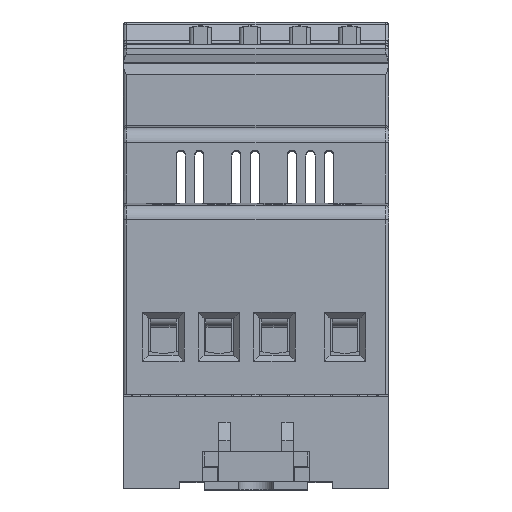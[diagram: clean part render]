
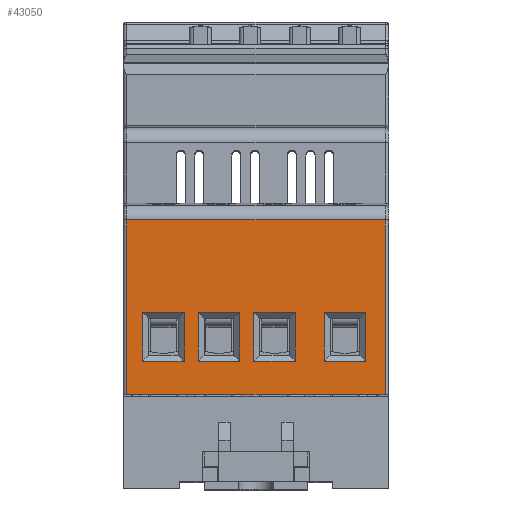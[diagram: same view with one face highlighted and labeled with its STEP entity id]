
A CAD part, top view. The second image highlights one B-rep face of the part: STEP entity #43050.
In plain terms, the highlighted planar face has unit normal (0, 0, 1).
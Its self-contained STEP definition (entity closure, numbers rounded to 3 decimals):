
#377=PLANE('',#59013);
#3580=LINE('',#77798,#9213);
#3581=LINE('',#77801,#9214);
#3582=LINE('',#77803,#9215);
#3583=LINE('',#77805,#9216);
#3584=LINE('',#77806,#9217);
#3585=LINE('',#77809,#9218);
#3586=LINE('',#77811,#9219);
#3587=LINE('',#77813,#9220);
#3588=LINE('',#77814,#9221);
#3589=LINE('',#77817,#9222);
#3590=LINE('',#77819,#9223);
#3591=LINE('',#77821,#9224);
#3592=LINE('',#77822,#9225);
#3593=LINE('',#77825,#9226);
#3594=LINE('',#77827,#9227);
#3595=LINE('',#77829,#9228);
#3596=LINE('',#77830,#9229);
#3597=LINE('',#77833,#9230);
#3598=LINE('',#77835,#9231);
#3599=LINE('',#77837,#9232);
#9213=VECTOR('',#63330,1000.);
#9214=VECTOR('',#63331,1000.);
#9215=VECTOR('',#63332,1000.);
#9216=VECTOR('',#63333,1000.);
#9217=VECTOR('',#63334,1000.);
#9218=VECTOR('',#63335,1000.);
#9219=VECTOR('',#63336,1000.);
#9220=VECTOR('',#63337,1000.);
#9221=VECTOR('',#63338,1000.);
#9222=VECTOR('',#63339,1000.);
#9223=VECTOR('',#63340,1000.);
#9224=VECTOR('',#63341,1000.);
#9225=VECTOR('',#63342,1000.);
#9226=VECTOR('',#63343,1000.);
#9227=VECTOR('',#63344,1000.);
#9228=VECTOR('',#63345,1000.);
#9229=VECTOR('',#63346,1000.);
#9230=VECTOR('',#63347,1000.);
#9231=VECTOR('',#63348,1000.);
#9232=VECTOR('',#63349,1000.);
#15291=ORIENTED_EDGE('',*,*,#23379,.T.);
#15292=ORIENTED_EDGE('',*,*,#23380,.T.);
#15293=ORIENTED_EDGE('',*,*,#23381,.T.);
#15294=ORIENTED_EDGE('',*,*,#23382,.T.);
#15295=ORIENTED_EDGE('',*,*,#23383,.T.);
#15296=ORIENTED_EDGE('',*,*,#23384,.T.);
#15297=ORIENTED_EDGE('',*,*,#23385,.T.);
#15298=ORIENTED_EDGE('',*,*,#23386,.T.);
#15299=ORIENTED_EDGE('',*,*,#23387,.T.);
#15300=ORIENTED_EDGE('',*,*,#23388,.T.);
#15301=ORIENTED_EDGE('',*,*,#23389,.T.);
#15302=ORIENTED_EDGE('',*,*,#23390,.T.);
#15303=ORIENTED_EDGE('',*,*,#23391,.T.);
#15304=ORIENTED_EDGE('',*,*,#23392,.T.);
#15305=ORIENTED_EDGE('',*,*,#23393,.T.);
#15306=ORIENTED_EDGE('',*,*,#23394,.T.);
#15307=ORIENTED_EDGE('',*,*,#23395,.T.);
#15308=ORIENTED_EDGE('',*,*,#23396,.T.);
#15309=ORIENTED_EDGE('',*,*,#23397,.T.);
#15310=ORIENTED_EDGE('',*,*,#23398,.T.);
#23379=EDGE_CURVE('',#31467,#31468,#3580,.T.);
#23380=EDGE_CURVE('',#31468,#31469,#3581,.T.);
#23381=EDGE_CURVE('',#31469,#31470,#3582,.T.);
#23382=EDGE_CURVE('',#31470,#31467,#3583,.T.);
#23383=EDGE_CURVE('',#31471,#31472,#3584,.T.);
#23384=EDGE_CURVE('',#31472,#31473,#3585,.T.);
#23385=EDGE_CURVE('',#31473,#31474,#3586,.T.);
#23386=EDGE_CURVE('',#31474,#31471,#3587,.T.);
#23387=EDGE_CURVE('',#31475,#31476,#3588,.T.);
#23388=EDGE_CURVE('',#31476,#31477,#3589,.T.);
#23389=EDGE_CURVE('',#31477,#31478,#3590,.T.);
#23390=EDGE_CURVE('',#31478,#31475,#3591,.T.);
#23391=EDGE_CURVE('',#31479,#31480,#3592,.T.);
#23392=EDGE_CURVE('',#31480,#31481,#3593,.T.);
#23393=EDGE_CURVE('',#31481,#31482,#3594,.T.);
#23394=EDGE_CURVE('',#31482,#31479,#3595,.T.);
#23395=EDGE_CURVE('',#31483,#31484,#3596,.T.);
#23396=EDGE_CURVE('',#31484,#31485,#3597,.T.);
#23397=EDGE_CURVE('',#31485,#31486,#3598,.T.);
#23398=EDGE_CURVE('',#31486,#31483,#3599,.T.);
#31467=VERTEX_POINT('',#77799);
#31468=VERTEX_POINT('',#77800);
#31469=VERTEX_POINT('',#77802);
#31470=VERTEX_POINT('',#77804);
#31471=VERTEX_POINT('',#77807);
#31472=VERTEX_POINT('',#77808);
#31473=VERTEX_POINT('',#77810);
#31474=VERTEX_POINT('',#77812);
#31475=VERTEX_POINT('',#77815);
#31476=VERTEX_POINT('',#77816);
#31477=VERTEX_POINT('',#77818);
#31478=VERTEX_POINT('',#77820);
#31479=VERTEX_POINT('',#77823);
#31480=VERTEX_POINT('',#77824);
#31481=VERTEX_POINT('',#77826);
#31482=VERTEX_POINT('',#77828);
#31483=VERTEX_POINT('',#77831);
#31484=VERTEX_POINT('',#77832);
#31485=VERTEX_POINT('',#77834);
#31486=VERTEX_POINT('',#77836);
#39400=EDGE_LOOP('',(#15291,#15292,#15293,#15294));
#39401=EDGE_LOOP('',(#15295,#15296,#15297,#15298));
#39402=EDGE_LOOP('',(#15299,#15300,#15301,#15302));
#39403=EDGE_LOOP('',(#15303,#15304,#15305,#15306));
#39404=EDGE_LOOP('',(#15307,#15308,#15309,#15310));
#41039=FACE_BOUND('',#39400,.T.);
#41040=FACE_BOUND('',#39401,.T.);
#41041=FACE_BOUND('',#39402,.T.);
#41042=FACE_BOUND('',#39403,.T.);
#41043=FACE_BOUND('',#39404,.T.);
#43050=ADVANCED_FACE('',(#41039,#41040,#41041,#41042,#41043),#377,.T.);
#59013=AXIS2_PLACEMENT_3D('',#77797,#63328,#63329);
#63328=DIRECTION('',(0.,0.,1.));
#63329=DIRECTION('',(1.,0.,0.));
#63330=DIRECTION('',(0.,1.,0.));
#63331=DIRECTION('',(1.,0.,0.));
#63332=DIRECTION('',(0.,-1.,0.));
#63333=DIRECTION('',(-1.,0.,0.));
#63334=DIRECTION('',(-1.,0.,0.));
#63335=DIRECTION('',(0.,1.,0.));
#63336=DIRECTION('',(1.,0.,0.));
#63337=DIRECTION('',(0.,-1.,0.));
#63338=DIRECTION('',(0.,1.,0.));
#63339=DIRECTION('',(1.,0.,0.));
#63340=DIRECTION('',(0.,-1.,0.));
#63341=DIRECTION('',(-1.,0.,0.));
#63342=DIRECTION('',(-1.,0.,0.));
#63343=DIRECTION('',(0.,1.,0.));
#63344=DIRECTION('',(1.,0.,0.));
#63345=DIRECTION('',(0.,-1.,0.));
#63346=DIRECTION('',(1.,0.,0.));
#63347=DIRECTION('',(0.,1.,0.));
#63348=DIRECTION('',(-1.,0.,0.));
#63349=DIRECTION('',(0.,-1.,0.));
#77797=CARTESIAN_POINT('',(-38.365,0.601,45.875));
#77798=CARTESIAN_POINT('',(-11.265,15.101,45.875));
#77799=CARTESIAN_POINT('',(-11.265,11.801,45.875));
#77800=CARTESIAN_POINT('',(-11.265,18.401,45.875));
#77801=CARTESIAN_POINT('',(-8.465,18.401,45.875));
#77802=CARTESIAN_POINT('',(-5.665,18.401,45.875));
#77803=CARTESIAN_POINT('',(-5.665,15.101,45.875));
#77804=CARTESIAN_POINT('',(-5.665,11.801,45.875));
#77805=CARTESIAN_POINT('',(-8.465,11.801,45.875));
#77806=CARTESIAN_POINT('',(-32.965,11.801,45.875));
#77807=CARTESIAN_POINT('',(-30.165,11.801,45.875));
#77808=CARTESIAN_POINT('',(-35.765,11.801,45.875));
#77809=CARTESIAN_POINT('',(-35.765,15.101,45.875));
#77810=CARTESIAN_POINT('',(-35.765,18.401,45.875));
#77811=CARTESIAN_POINT('',(-32.965,18.401,45.875));
#77812=CARTESIAN_POINT('',(-30.165,18.401,45.875));
#77813=CARTESIAN_POINT('',(-30.165,15.101,45.875));
#77814=CARTESIAN_POINT('',(-28.265,15.101,45.875));
#77815=CARTESIAN_POINT('',(-28.265,11.801,45.875));
#77816=CARTESIAN_POINT('',(-28.265,18.401,45.875));
#77817=CARTESIAN_POINT('',(-25.465,18.401,45.875));
#77818=CARTESIAN_POINT('',(-22.665,18.401,45.875));
#77819=CARTESIAN_POINT('',(-22.665,15.101,45.875));
#77820=CARTESIAN_POINT('',(-22.665,11.801,45.875));
#77821=CARTESIAN_POINT('',(-25.465,11.801,45.875));
#77822=CARTESIAN_POINT('',(-17.965,11.801,45.875));
#77823=CARTESIAN_POINT('',(-15.165,11.801,45.875));
#77824=CARTESIAN_POINT('',(-20.765,11.801,45.875));
#77825=CARTESIAN_POINT('',(-20.765,15.101,45.875));
#77826=CARTESIAN_POINT('',(-20.765,18.401,45.875));
#77827=CARTESIAN_POINT('',(-17.965,18.401,45.875));
#77828=CARTESIAN_POINT('',(-15.165,18.401,45.875));
#77829=CARTESIAN_POINT('',(-15.165,15.101,45.875));
#77830=CARTESIAN_POINT('',(-20.465,7.301,45.875));
#77831=CARTESIAN_POINT('',(-37.865,7.301,45.875));
#77832=CARTESIAN_POINT('',(-3.065,7.301,45.875));
#77833=CARTESIAN_POINT('',(-3.065,19.074,45.875));
#77834=CARTESIAN_POINT('',(-3.065,30.848,45.875));
#77835=CARTESIAN_POINT('',(-20.465,30.848,45.875));
#77836=CARTESIAN_POINT('',(-37.865,30.848,45.875));
#77837=CARTESIAN_POINT('',(-37.865,19.074,45.875));
